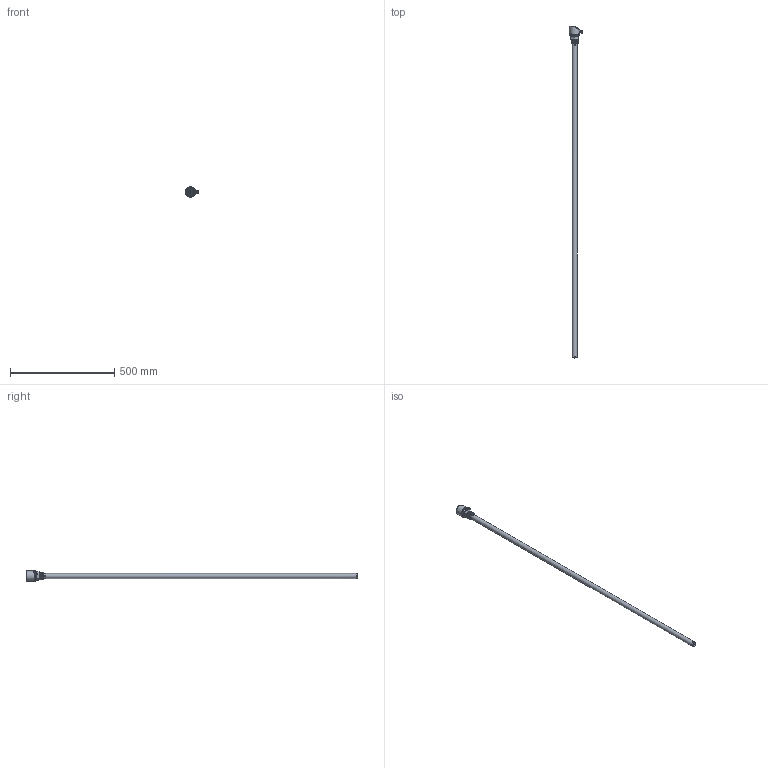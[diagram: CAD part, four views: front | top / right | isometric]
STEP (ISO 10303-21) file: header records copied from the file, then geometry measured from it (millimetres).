
FILE_DESCRIPTION (( 'STEP AP214' ), '1' );
FILE_NAME ('G1数显电容-1500（同轴）.STEP', '2025-03-11T06:22:59', ( '' ), ( '' ), 'SwSTEP 2.0', 'SolidWorks 2020', '' );
FILE_SCHEMA (( 'AUTOMOTIVE_DESIGN' ));
Length unit declared in the file: millimetre
Products named in the file (9): 揤薯奻裔; G1数显电容-1500（同轴）; 偌瑩簽; 滅阨諉芛褲极1; G1̽ͷ; 肮粣奪; PVC躇猾菜; 揤薯珆尨欶; 抻芛ㄗ蟀哿講ㄘ
Assembly tree (10 placements, depth 2):
  G1数显电容-1500（同轴）
    揤薯奻裔
    揤薯珆尨欶
    滅阨諉芛褲极1
    偌瑩簽  x3
    PVC躇猾菜
    抻芛ㄗ蟀哿講ㄘ
    肮粣奪
    G1̽ͷ
Bounding box: 64 x 1590.1 x 50 mm (x, y, z)
Volume: 325987 mm3; surface area: 294336.4 mm2
Topology: 10 solids, 10 shells, 321 faces, 759 edges, 491 vertices
Faces by surface type: plane 129, cylinder 118, cone 48, bspline 11, torus 11, sphere 4
Full cylindrical faces by diameter (mm): 1 x4, 1.2 x3, 1.8 x1, 2 x3, 2.5 x6, 2.8 x1, 4.3 x3, 4.5 x6, 5 x8, 6 x1, 7.2 x1, 8 x1, 8.5 x1, 9.75 x1, 10 x1, 10.49 x1, 10.5 x1, 10.8 x1, 10.9 x1, 11 x2, 12 x1, 21 x2, 24 x1, 30 x1, 35 x1, 35.5 x1, 42 x1, 43.9 x1, 45.4 x1, 45.6 x2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
Entity records: 13635 total; most frequent: CARTESIAN_POINT 6743, DIRECTION 1341, ORIENTED_EDGE 1134, EDGE_CURVE 567, AXIS2_PLACEMENT_3D 545, EDGE_LOOP 480, VERTEX_POINT 421, FACE_OUTER_BOUND 362
